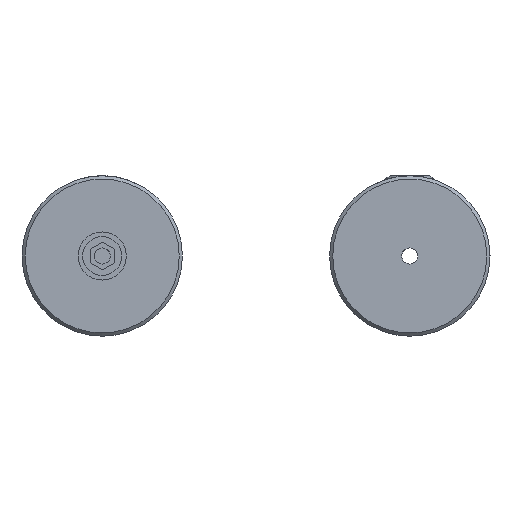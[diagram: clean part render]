
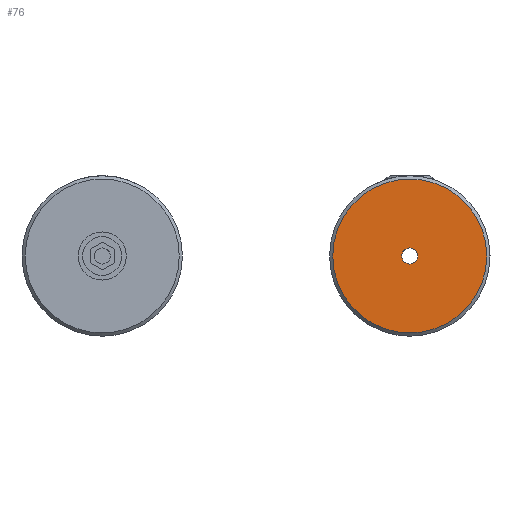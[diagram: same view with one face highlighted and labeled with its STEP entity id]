
A CAD part, left-side view. The second image highlights one B-rep face of the part: STEP entity #76.
In plain terms, the highlighted planar face has unit normal (-1, 0, 0).
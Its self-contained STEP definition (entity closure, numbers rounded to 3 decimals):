
#76 = ADVANCED_FACE( 'NONE', ( #142, #143 ), #144, .F. );
#142 = FACE_OUTER_BOUND( '', #211, .T. );
#143 = FACE_BOUND( '', #212, .T. );
#144 = PLANE( '', #213 );
#211 = EDGE_LOOP( '', ( #401 ) );
#212 = EDGE_LOOP( '', ( #402 ) );
#213 = AXIS2_PLACEMENT_3D( '', #403, #404, #405 );
#401 = ORIENTED_EDGE( '', *, *, #743, .T. );
#402 = ORIENTED_EDGE( '', *, *, #751, .F. );
#403 = CARTESIAN_POINT( '', ( 0., 5., 0. ) );
#404 = DIRECTION( '', ( 1., 0., 0. ) );
#405 = DIRECTION( '', ( 0., 1., 0. ) );
#743 = EDGE_CURVE( 'NONE', #1087, #1087, #1088, .F. );
#751 = EDGE_CURVE( 'NONE', #1100, #1100, #1101, .F. );
#1087 = VERTEX_POINT( '', #1687 );
#1088 = CIRCLE( '', #1688, 4.8 );
#1100 = VERTEX_POINT( '', #1750 );
#1101 = CIRCLE( '', #1751, 0.5 );
#1687 = CARTESIAN_POINT( '', ( 0., 0., -4.8 ) );
#1688 = AXIS2_PLACEMENT_3D( '', #1914, #1915, #1916 );
#1750 = CARTESIAN_POINT( '', ( 0., 0., -0.5 ) );
#1751 = AXIS2_PLACEMENT_3D( '', #1924, #1925, #1926 );
#1914 = CARTESIAN_POINT( '', ( 0., 0., 0. ) );
#1915 = DIRECTION( '', ( 1., 0., 0. ) );
#1916 = DIRECTION( '', ( 0., 0., -1. ) );
#1924 = CARTESIAN_POINT( '', ( 0., 0., 0. ) );
#1925 = DIRECTION( '', ( 1., 0., 0. ) );
#1926 = DIRECTION( '', ( 0., 0., -1. ) );
